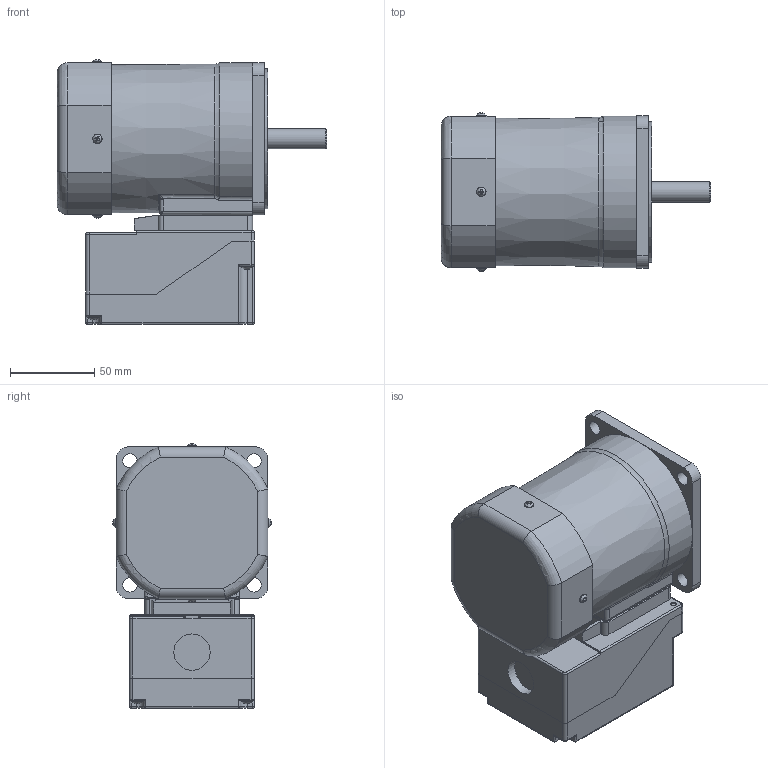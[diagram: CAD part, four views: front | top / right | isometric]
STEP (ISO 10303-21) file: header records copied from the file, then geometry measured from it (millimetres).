
FILE_DESCRIPTION(/* description */ (''),/* implementation_level */ '2;1');
FILE_NAME(/* name */ 'E:\도면작업\2016\0704) 미주향 SG 도면\3D MOTOR\TERMINAL BOX TYPE\INDUCTION TERMINAL BOX\SG9I60S_-T2.stp',/* time_stamp */ '2017-01-23T18:58:35+09:00',/* author */ ('jy-jung'),/* organization */ (''),/* preprocessor_version */ 'ST-DEVELOPER v15.6',/* originating_system */ 'Autodesk Inventor 2015',/* authorisation */ '');
FILE_SCHEMA (('AUTOMOTIVE_DESIGN { 1 0 10303 214 3 1 1 }'));
Length unit declared in the file: millimetre
Products named in the file (1): 부품2
Bounding box: 159.8 x 93.89 x 156.95 mm (x, y, z)
Volume: 935749.7 mm3; surface area: 138790.9 mm2
Topology: 1 solids, 9 shells, 944 faces, 2486 edges, 1586 vertices
Faces by surface type: plane 501, cylinder 310, bspline 55, torus 42, cone 24, sphere 12
Full cylindrical faces by diameter (mm): 2.5 x4, 3 x8, 3.2 x3, 3.4 x1, 3.5 x4, 4.2 x1, 4.5 x8, 5.5 x8, 5.6 x4, 6.9 x4, 8.5 x4, 12 x1, 21.5 x1, 40 x1, 83 x1
Entity records: 31460 total; most frequent: CARTESIAN_POINT 7704, ORIENTED_EDGE 4694, DIRECTION 4668, EDGE_CURVE 2347, AXIS2_PLACEMENT_3D 1646, VERTEX_POINT 1568, LINE 1376, VECTOR 1376
